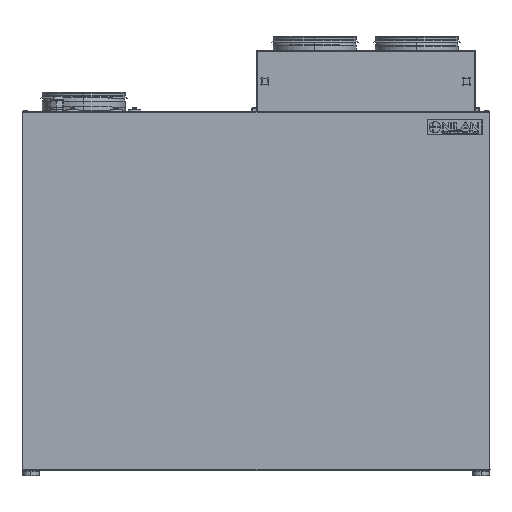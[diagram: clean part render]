
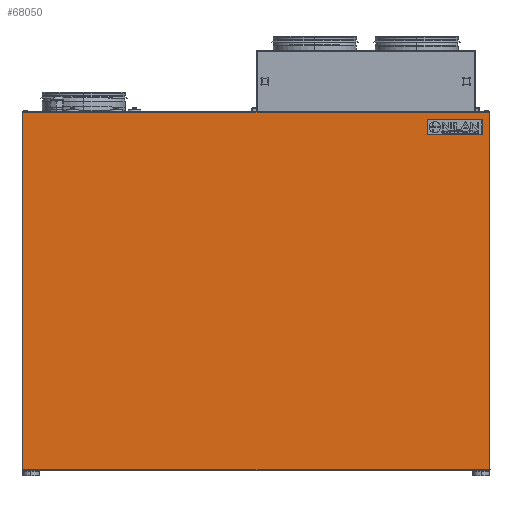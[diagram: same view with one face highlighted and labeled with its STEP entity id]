
A CAD part, top view. The second image highlights one B-rep face of the part: STEP entity #68050.
In plain terms, the highlighted planar face has unit normal (0, 0, 1).
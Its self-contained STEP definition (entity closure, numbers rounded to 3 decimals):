
#1753 = AXIS2_PLACEMENT_3D ( 'NONE', #139566, #126387, #52424 ) ;
#7836 = VECTOR ( 'NONE', #86978, 1000. ) ;
#7974 = CARTESIAN_POINT ( 'NONE',  ( -450., -58.3, 300.9 ) ) ;
#15378 = VECTOR ( 'NONE', #127094, 1000. ) ;
#19010 = ORIENTED_EDGE ( 'NONE', *, *, #92817, .F. ) ;
#20563 = DIRECTION ( 'NONE',  ( -1., 0., 0. ) ) ;
#22275 = LINE ( 'NONE', #143998, #15378 ) ;
#28151 = VECTOR ( 'NONE', #20563, 1000. ) ;
#34960 = EDGE_CURVE ( 'NONE', #180883, #68505, #129144, .T. ) ;
#38827 = VERTEX_POINT ( 'NONE', #105147 ) ;
#39126 = ORIENTED_EDGE ( 'NONE', *, *, #34960, .F. ) ;
#41789 = CARTESIAN_POINT ( 'NONE',  ( 448.2, 628., 300.9 ) ) ;
#51687 = FACE_OUTER_BOUND ( 'NONE', #167621, .T. ) ;
#52424 = DIRECTION ( 'NONE',  ( -1., 0., 0. ) ) ;
#59093 = EDGE_CURVE ( 'NONE', #68505, #38827, #22275, .T. ) ;
#68050 = ADVANCED_FACE ( 'NONE', ( #51687 ), #182866, .F. ) ;
#68505 = VERTEX_POINT ( 'NONE', #180209 ) ;
#83614 = VECTOR ( 'NONE', #177549, 1000. ) ;
#86978 = DIRECTION ( 'NONE',  ( 1., 0., 0. ) ) ;
#92817 = EDGE_CURVE ( 'NONE', #114259, #180883, #94744, .T. ) ;
#94744 = LINE ( 'NONE', #105378, #83614 ) ;
#98409 = EDGE_CURVE ( 'NONE', #38827, #114259, #176195, .T. ) ;
#105147 = CARTESIAN_POINT ( 'NONE',  ( -448.2, 628., 300.9 ) ) ;
#105378 = CARTESIAN_POINT ( 'NONE',  ( 448.2, 1529.8, 300.9 ) ) ;
#111162 = CARTESIAN_POINT ( 'NONE',  ( 448.2, -58.3, 300.9 ) ) ;
#114259 = VERTEX_POINT ( 'NONE', #41789 ) ;
#126387 = DIRECTION ( 'NONE',  ( 0., 0., -1. ) ) ;
#127094 = DIRECTION ( 'NONE',  ( 0., 1., 0. ) ) ;
#129144 = LINE ( 'NONE', #7974, #28151 ) ;
#139566 = CARTESIAN_POINT ( 'NONE',  ( -450., 1529.8, 300.9 ) ) ;
#143998 = CARTESIAN_POINT ( 'NONE',  ( -448.2, 1529.8, 300.9 ) ) ;
#158327 = ORIENTED_EDGE ( 'NONE', *, *, #98409, .F. ) ;
#167621 = EDGE_LOOP ( 'NONE', ( #182513, #39126, #19010, #158327 ) ) ;
#175464 = CARTESIAN_POINT ( 'NONE',  ( -450., 628., 300.9 ) ) ;
#176195 = LINE ( 'NONE', #175464, #7836 ) ;
#177549 = DIRECTION ( 'NONE',  ( 0., -1., 0. ) ) ;
#180209 = CARTESIAN_POINT ( 'NONE',  ( -448.2, -58.3, 300.9 ) ) ;
#180883 = VERTEX_POINT ( 'NONE', #111162 ) ;
#182513 = ORIENTED_EDGE ( 'NONE', *, *, #59093, .F. ) ;
#182866 = PLANE ( 'NONE',  #1753 ) ;
